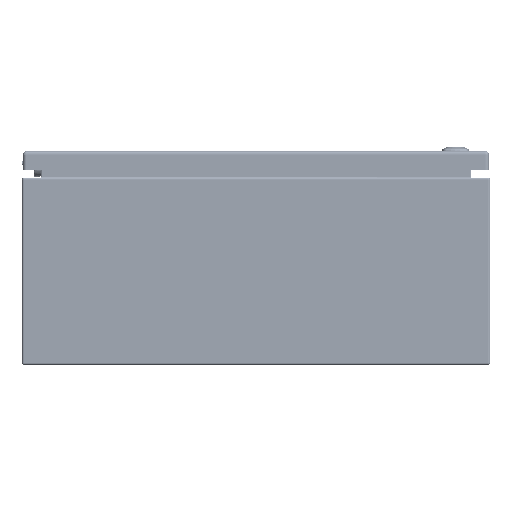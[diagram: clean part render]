
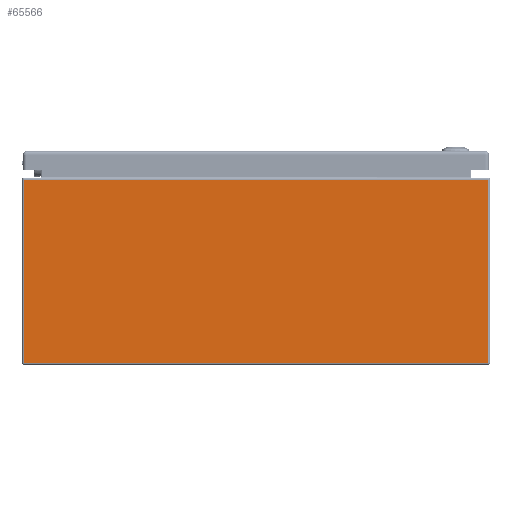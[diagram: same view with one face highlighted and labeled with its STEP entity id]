
A CAD part, front view. The second image highlights one B-rep face of the part: STEP entity #65566.
In plain terms, the highlighted planar face has unit normal (0, -1, 0).
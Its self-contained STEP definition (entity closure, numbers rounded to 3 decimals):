
#6100=LINE('',#92702,#10246);
#6107=LINE('',#92717,#10253);
#6109=LINE('',#92724,#10255);
#6111=LINE('',#92733,#10257);
#10246=VECTOR('',#76638,0.394);
#10253=VECTOR('',#76651,0.394);
#10255=VECTOR('',#76659,0.394);
#10257=VECTOR('',#76671,0.394);
#15486=FACE_OUTER_BOUND('',#19574,.T.);
#19574=EDGE_LOOP('',(#43669,#43670,#43671,#43672));
#26454=VERTEX_POINT('',#92672);
#26461=VERTEX_POINT('',#92698);
#26466=VERTEX_POINT('',#92716);
#26468=VERTEX_POINT('',#92722);
#33068=EDGE_CURVE('',#26454,#26461,#6100,.T.);
#33075=EDGE_CURVE('',#26461,#26466,#6107,.T.);
#33079=EDGE_CURVE('',#26468,#26454,#6109,.T.);
#33084=EDGE_CURVE('',#26468,#26466,#6111,.T.);
#43669=ORIENTED_EDGE('',*,*,#33068,.F.);
#43670=ORIENTED_EDGE('',*,*,#33079,.F.);
#43671=ORIENTED_EDGE('',*,*,#33084,.T.);
#43672=ORIENTED_EDGE('',*,*,#33075,.F.);
#64133=PLANE('',#70554);
#65566=ADVANCED_FACE('',(#15486),#64133,.F.);
#70554=AXIS2_PLACEMENT_3D('',#92744,#76685,#76686);
#76638=DIRECTION('',(1.,0.,0.));
#76651=DIRECTION('',(0.,0.,-1.));
#76659=DIRECTION('',(0.,0.,1.));
#76671=DIRECTION('',(1.,0.,0.));
#76685=DIRECTION('center_axis',(0.,1.,0.));
#76686=DIRECTION('ref_axis',(0.,0.,1.));
#92672=CARTESIAN_POINT('',(-9.916,-12.,7.916));
#92698=CARTESIAN_POINT('',(9.916,-12.,7.916));
#92702=CARTESIAN_POINT('',(4.979,-12.,7.916));
#92716=CARTESIAN_POINT('',(9.916,-12.,0.084));
#92717=CARTESIAN_POINT('',(9.916,-12.,4.));
#92722=CARTESIAN_POINT('',(-9.916,-12.,0.084));
#92724=CARTESIAN_POINT('',(-9.916,-12.,4.));
#92733=CARTESIAN_POINT('',(-4.958,-12.,0.084));
#92744=CARTESIAN_POINT('Origin',(0.,-12.,4.));
